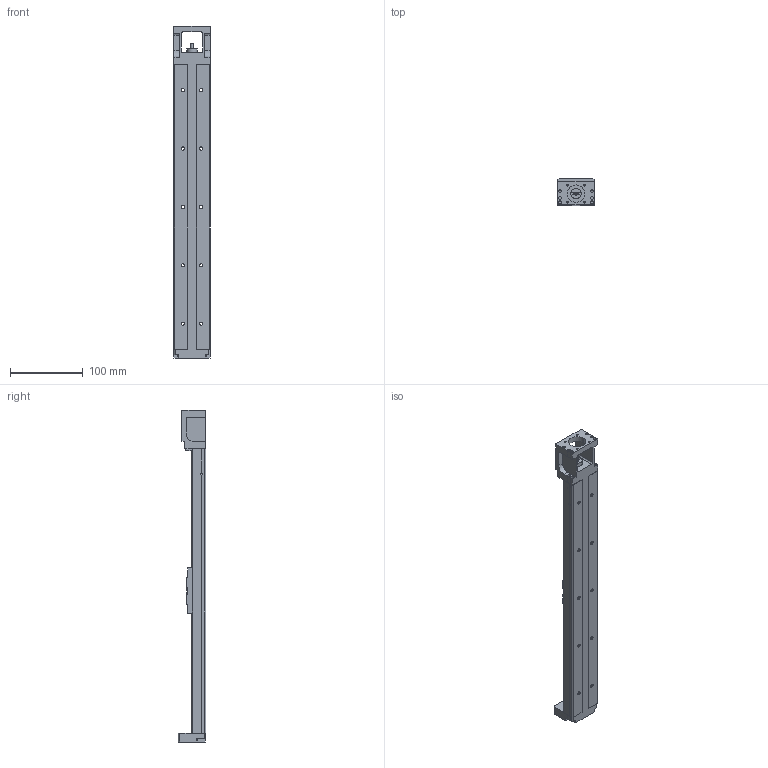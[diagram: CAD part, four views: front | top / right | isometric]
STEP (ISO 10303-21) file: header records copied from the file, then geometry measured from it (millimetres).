
FILE_DESCRIPTION (( 'STEP AP203' ), '1' );
FILE_NAME ('GSX50-300-LL08025-P7.STEP', '2013-11-02T01:44:58', ( '微软用户' ), ( '微软中国' ), 'SwSTEP 2.0', 'SolidWorks 2010', '' );
FILE_SCHEMA (( 'CONFIG_CONTROL_DESIGN' ));
Length unit declared in the file: millimetre
Products named in the file (1): GSX50-300-LL08025-P7
Bounding box: 50 x 38 x 455 mm (x, y, z)
Volume: 285180.5 mm3; surface area: 100047 mm2
Topology: 1 solids, 1 shells, 329 faces, 859 edges, 542 vertices
Faces by surface type: cylinder 163, plane 130, cone 36
Entity records: 10134 total; most frequent: DIRECTION 1811, CARTESIAN_POINT 1751, ORIENTED_EDGE 1654, EDGE_CURVE 827, AXIS2_PLACEMENT_3D 666, VERTEX_POINT 542, VECTOR 479, LINE 479
